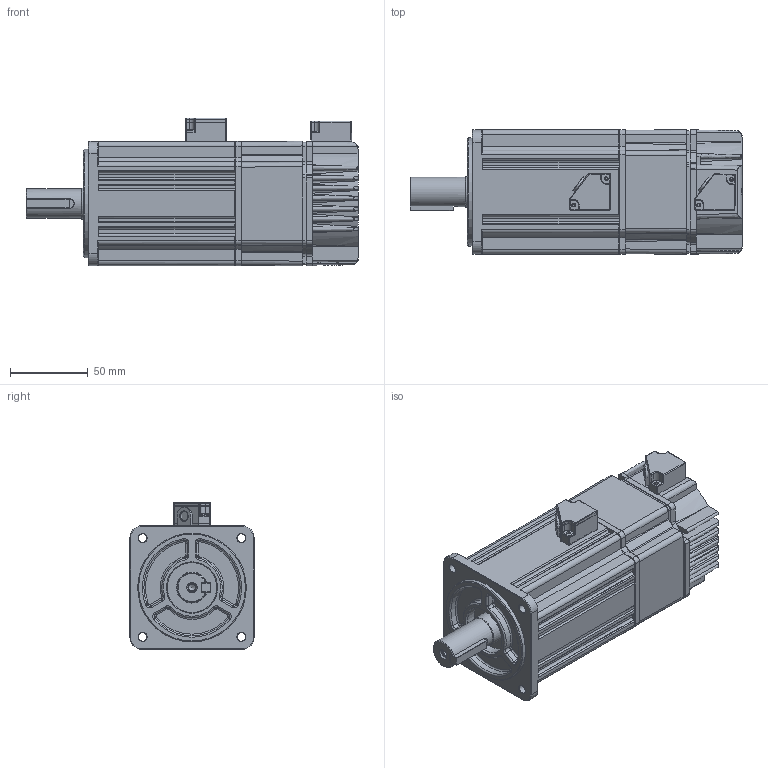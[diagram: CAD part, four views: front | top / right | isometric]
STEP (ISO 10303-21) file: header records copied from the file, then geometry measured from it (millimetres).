
FILE_DESCRIPTION( ( 'Unknown' ), '1' );
FILE_NAME( 'C:/Documents and Settings/chasechiu/桌面/KM/TSC06_3D_brake without connect/DTSC08751C3BGUD0K.stp', 'Unknown', ( 'Unknown' ), ( 'Unknown' ), 'PSStep 14.0', 'Unknown', ' ' );
FILE_SCHEMA( ( 'AUTOMOTIVE_DESIGN { 1 0 10303 214 1 1 1 1 }' ) );
Length unit declared in the file: millimetre
Products named in the file (16): 0S140H1203422-03; 0S152W6A15H01-00-oa1; 0S100HS0C0121-03; 0S301H0A0BP01-05; 0S871WHPPCN20-02-oa0; 0S200HS00000F-00; 0S211HS00000F-01; Assem1; 0S302H0A1B101-00; 0S8618B022211-02; 0S362H8035PB1-01; 0S871WHPPCN20-02; 0S152W6A15H01-00; 0S363880402B1-11; 0987-; 0Y204E0628001-00
Assembly tree (15 placements, depth 4):
  Assem1
    0S302H0A1B101-00
    0S8618B022211-02
    0S362H8035PB1-01
    0S871WHPPCN20-02
    0S152W6A15H01-00
    0S363880402B1-11
    0987-
    0Y204E0628001-00
    0S100HS0C0121-03
      0S301H0A0BP01-05
      0S871WHPPCN20-02-oa0
      0S140H1203422-03
        0S152W6A15H01-00-oa1
    0S200HS00000F-00
      0S211HS00000F-01
Bounding box: 214 x 80.21 x 95.11 mm (x, y, z)
Volume: 1028714.6 mm3; surface area: 141551.9 mm2
Topology: 12 solids, 12 shells, 1047 faces, 2775 edges, 1749 vertices
Faces by surface type: plane 425, cylinder 394, cone 80, bspline 62, torus 59, sphere 27
Full cylindrical faces by diameter (mm): 1.567 x4, 2.013 x1, 2.2 x2, 2.3 x2, 2.459 x4, 2.5 x6, 3.242 x12, 3.5 x8, 4.134 x1, 4.5 x4, 5 x4, 5.2 x1, 5.5 x4, 5.8 x2, 19 x1, 20 x1, 32.05 x1, 70 x1, 75 x3, 76 x2, 76.5 x2, 77.329 x1
Entity records: 47327 total; most frequent: CARTESIAN_POINT 13496, DIRECTION 5266, ORIENTED_EDGE 5220, EDGE_CURVE 2610, AXIS2_PLACEMENT_3D 2002, VERTEX_POINT 1704, LINE 1262, VECTOR 1262
